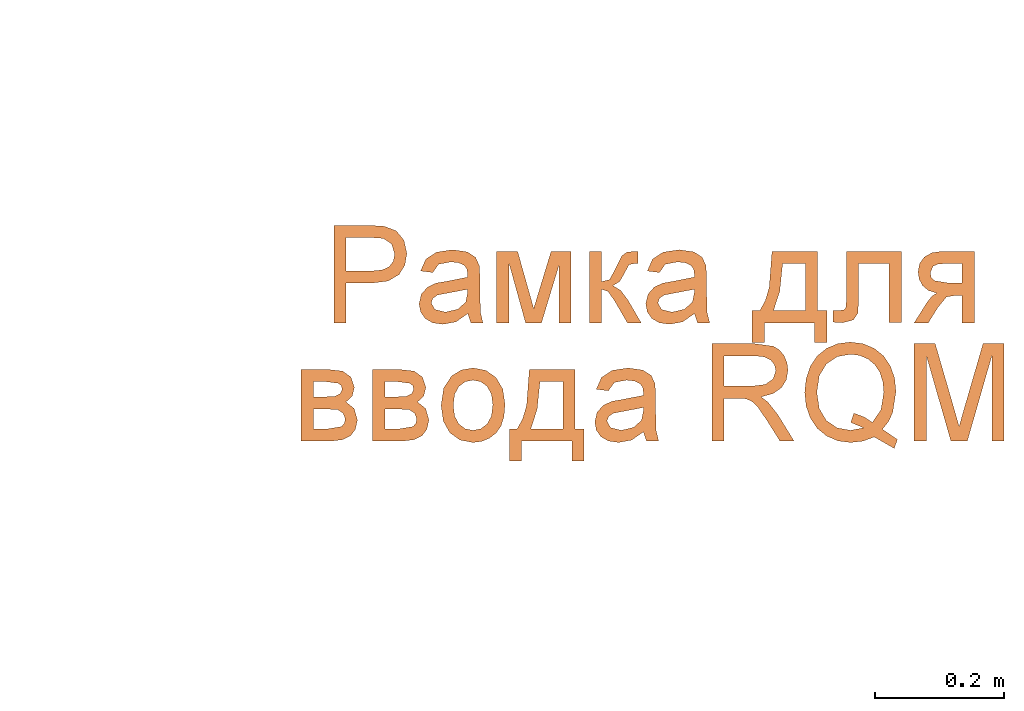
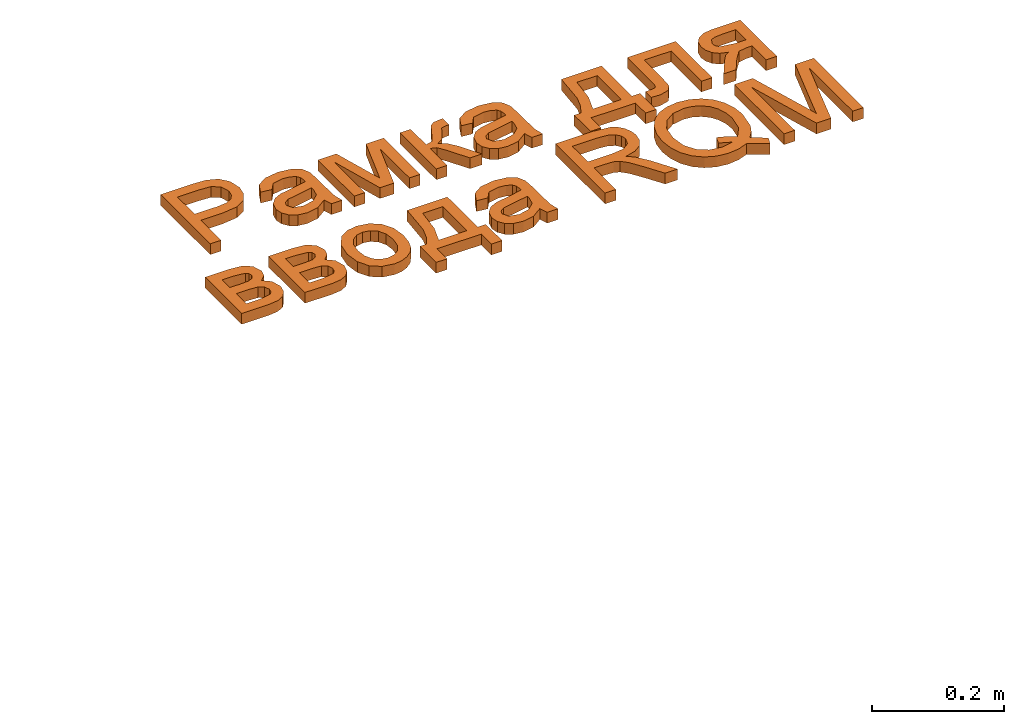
# One storey, part 32 of 71: 1 proxy.
"""IFC2X3 building model written with IfcOpenShell, lengths in millimetres."""

import ifcopenshell
import ifcopenshell.guid

model = None  # the IFC model being written
_history = None  # IfcOwnerHistory: only IFC2X3 demands one
_inside = {}  # id of a spatial element -> (the spatial element, [elements in it])
_under = {}  # id of a project, library or spatial element -> (it, [spatial elements below it])
_declared = {}  # id of a project -> (the project, [libraries it declares])
_typed = {}  # id of a type object -> (the type object, [elements of that type])
_made_of = {}  # id of a material, layer set ... -> (it, [elements and type objects made of it])


def new_model(schema):
    """Start an empty IFC model of exactly this schema.

    Asked for "IFC4X3", IfcOpenShell would pick the latest addendum, in which some entities
    have other attributes; the version numbers below select the first issue.
    IFC2X3 requires an IfcOwnerHistory on every rooted entity: one is made here for all.
    """
    global model, _history
    if schema == "IFC4X3":
        model = ifcopenshell.file(schema_version=(4, 3, 0, 0))
    else:
        model = ifcopenshell.file(schema=schema)
    _inside.clear()
    _under.clear()
    _declared.clear()
    _typed.clear()
    _made_of.clear()
    _history = None
    if model.schema == "IFC2X3":
        org = make("IfcOrganization", Name="unknown")
        user = make(
            "IfcPersonAndOrganization",
            ThePerson=make("IfcPerson", FamilyName="unknown"),
            TheOrganization=org,
        )
        app = make(
            "IfcApplication",
            ApplicationDeveloper=org,
            Version="unknown",
            ApplicationFullName="unknown",
            ApplicationIdentifier="unknown",
        )
        _history = make(
            "IfcOwnerHistory",
            OwningUser=user,
            OwningApplication=app,
            ChangeAction="ADDED",
            CreationDate=0,
        )
    return model


def make(cls, **values):
    """One entity of the class cls with the attributes given. An attribute that is None is left unset."""
    return model.create_entity(
        cls, **{name: value for name, value in values.items() if value is not None}
    )


def entity(cls, *values):
    """Any entity or typed value of the class cls, its attributes in the order of the schema. None: left unset."""
    e = model.create_entity(cls)
    for i, value in enumerate(values):
        if value is not None:
            e[i] = value
    return e


def rooted(cls, **values):
    """An entity with a GlobalId (a new one), such as an element, a storey or a relation."""
    return make(cls, GlobalId=ifcopenshell.guid.new(), OwnerHistory=_history, **values)


def si_unit(unit_type, name, prefix=None):
    """IfcSIUnit, for example si_unit("LENGTHUNIT", "METRE", prefix="MILLI")."""
    return make("IfcSIUnit", UnitType=unit_type, Prefix=prefix, Name=name)


def converted_unit(unit_type, name, factor, base, dimensions=None, offset=None):
    """IfcConversionBasedUnit, such as the inch: factor (a typed value) times the base unit."""
    return make(
        "IfcConversionBasedUnit"
        if offset is None
        else "IfcConversionBasedUnitWithOffset",
        ConversionOffset=offset,
        Dimensions=None
        if dimensions is None
        else entity("IfcDimensionalExponents", *dimensions),
        UnitType=unit_type,
        Name=name,
        ConversionFactor=make(
            "IfcMeasureWithUnit", ValueComponent=factor, UnitComponent=base
        ),
    )


def derived_unit(unit_type, elements):
    """IfcDerivedUnit: a product of units, each with its exponent."""
    return make(
        "IfcDerivedUnit",
        Elements=[
            make("IfcDerivedUnitElement", Unit=unit, Exponent=power)
            for unit, power in elements
        ],
        UnitType=unit_type,
    )


def assignment(units):
    """IfcUnitAssignment: the units of a project."""
    return None if units is None else make("IfcUnitAssignment", Units=units)


def point(xyz):
    """IfcCartesianPoint."""
    return None if xyz is None else make("IfcCartesianPoint", Coordinates=xyz)


def direction(xyz):
    """IfcDirection."""
    return None if xyz is None else make("IfcDirection", DirectionRatios=xyz)


def frame(location, z_axis=None, x_axis=None):
    """IfcAxis2Placement3D, a coordinate frame: its origin and axes. An axis left out is left unset."""
    return make(
        "IfcAxis2Placement3D",
        Location=point(location),
        Axis=direction(z_axis),
        RefDirection=direction(x_axis),
    )


def origin():
    """The frame at (0, 0, 0) with its axes left unset."""
    return frame((0.0, 0.0, 0.0))


def place(relative_to, where):
    """IfcLocalPlacement: puts the frame where relative to a parent placement (None: the world)."""
    return make(
        "IfcLocalPlacement", PlacementRelTo=relative_to, RelativePlacement=where
    )


def context(
    kind, dimensions, precision=None, world=None, true_north=None, identifier=None
):
    """IfcGeometricRepresentationContext, for example the 3D "Model" context."""
    return make(
        "IfcGeometricRepresentationContext",
        ContextIdentifier=identifier,
        ContextType=kind,
        CoordinateSpaceDimension=dimensions,
        Precision=precision,
        WorldCoordinateSystem=world,
        TrueNorth=true_north,
    )


def subcontext(parent, identifier, kind, view, scale=None):
    """IfcGeometricRepresentationSubContext, for example "Body" below "Model"."""
    return make(
        "IfcGeometricRepresentationSubContext",
        ContextIdentifier=identifier,
        ContextType=kind,
        ParentContext=parent,
        TargetScale=scale,
        TargetView=view,
    )


def project(units=None, contexts=None):
    """IfcProject with its units and contexts."""
    return rooted(
        "IfcProject",
        Name="project",
        RepresentationContexts=contexts,
        UnitsInContext=assignment(units),
    )


def spatial(cls, under=None, at=None, **own):
    """A site, building, storey or space (cls), placed at a placement, below another one or the project."""
    s = rooted(cls, ObjectPlacement=at, **own)
    if under is not None:
        _under.setdefault(under.id(), (under, []))[1].append(s)
    return s


def polyline(points):
    """IfcPolyline through the points."""
    return make("IfcPolyline", Points=[point(p) for p in points])


def outline(outer, holes=None, kind="AREA"):
    """IfcArbitraryClosedProfileDef: a profile drawn as a closed curve; with holes, ...WithVoids."""
    if holes is None:
        return make("IfcArbitraryClosedProfileDef", ProfileType=kind, OuterCurve=outer)
    return make(
        "IfcArbitraryProfileDefWithVoids",
        ProfileType=kind,
        OuterCurve=outer,
        InnerCurves=holes,
    )


def extrude(swept, where, along, depth):
    """IfcExtrudedAreaSolid: the profile swept, set in the frame where, extruded along a direction by depth."""
    return make(
        "IfcExtrudedAreaSolid",
        SweptArea=swept,
        Position=where,
        ExtrudedDirection=direction(along),
        Depth=depth,
    )


def shape(context_of_items, identifier, shape_type, items):
    """IfcShapeRepresentation: the items that make up one representation, for example the "Body"."""
    return make(
        "IfcShapeRepresentation",
        ContextOfItems=context_of_items,
        RepresentationIdentifier=identifier,
        RepresentationType=shape_type,
        Items=items,
    )


def made_of(thing, what):
    """Note that an element or type object is made of a material, layer set ...; save() writes the relation."""
    if what is not None:
        _made_of.setdefault(what.id(), (what, []))[1].append(thing)
    return thing


def element(
    cls,
    number,
    at=None,
    inside=None,
    cuts=None,
    type_object=None,
    material=None,
    context=None,
    identifier="Body",
    shape_type=None,
    held_by="IfcProductDefinitionShape",
    body=None,
    shapes=None,
    **own,
):
    """One element of the class cls, such as IfcWall. Its Tag is "e" and its number.

    at: its placement. inside: the storey or other place that contains it. cuts: it is an
    opening in that element (IfcRelVoidsElement). A single representation is given by context,
    identifier, shape_type and body (its items); several are given by shapes. held_by: the class
    of the entity that holds the representations. save() writes the other relations.
    """
    e = rooted(cls, Tag="e%d" % number, ObjectPlacement=at, **own)
    if body is not None:
        shapes = [shape(context, identifier, shape_type, body)]
    if shapes is not None:
        e.Representation = make(held_by, Representations=shapes)
    if inside is not None:
        _inside.setdefault(inside.id(), (inside, []))[1].append(e)
    if cuts is not None:
        rooted(
            "IfcRelVoidsElement", RelatingBuildingElement=cuts, RelatedOpeningElement=e
        )
    if type_object is not None:
        _typed.setdefault(type_object.id(), (type_object, []))[1].append(e)
    return made_of(e, material)


def aggregate(whole, parts):
    """IfcRelAggregates: a whole, such as a stair, and the parts it consists of."""
    return rooted("IfcRelAggregates", RelatingObject=whole, RelatedObjects=parts)


def save(model, path):
    """Write the relations noted so far, then the file.

    IfcRelAggregates (storeys below a building ...), IfcRelContainedInSpatialStructure (elements
    in a storey), IfcRelDefinesByType, IfcRelAssociatesMaterial and IfcRelDeclares: one each for
    every whole, place, type object, material and project.
    """
    for whole, parts in _under.values():
        aggregate(whole, parts)
    for where, things in _inside.values():
        rooted(
            "IfcRelContainedInSpatialStructure",
            RelatedElements=things,
            RelatingStructure=where,
        )
    for kind, things in _typed.values():
        rooted("IfcRelDefinesByType", RelatedObjects=things, RelatingType=kind)
    for what, things in _made_of.values():
        rooted("IfcRelAssociatesMaterial", RelatedObjects=things, RelatingMaterial=what)
    for by, libraries in _declared.values():
        rooted("IfcRelDeclares", RelatingContext=by, RelatedDefinitions=libraries)
    model.write(path)


model = new_model("IFC2X3")

# Units and contexts
model_context = context("Model", 3, precision=0.01, world=origin(), true_north=direction((6.12303176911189e-17, 1.0)))
body_context = subcontext(model_context, "Body", "Model", "MODEL_VIEW")
ifc_project = project(units=[si_unit("LENGTHUNIT", "METRE", prefix="MILLI"), si_unit("AREAUNIT", "SQUARE_METRE"), si_unit("VOLUMEUNIT", "CUBIC_METRE"), converted_unit("PLANEANGLEUNIT", "DEGREE", entity("IfcRatioMeasure", 0.0174532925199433), si_unit("PLANEANGLEUNIT", "RADIAN"), dimensions=[0, 0, 0, 0, 0, 0, 0]), si_unit("MASSUNIT", "GRAM", prefix="KILO"), derived_unit("MASSDENSITYUNIT", [(si_unit("MASSUNIT", "GRAM", prefix="KILO"), 1), (si_unit("LENGTHUNIT", "METRE"), -3)]), si_unit("TIMEUNIT", "SECOND"), si_unit("FREQUENCYUNIT", "HERTZ"), si_unit("THERMODYNAMICTEMPERATUREUNIT", "DEGREE_CELSIUS"), derived_unit("THERMALTRANSMITTANCEUNIT", [(si_unit("MASSUNIT", "GRAM", prefix="KILO"), 1), (si_unit("THERMODYNAMICTEMPERATUREUNIT", "KELVIN"), -1), (si_unit("TIMEUNIT", "SECOND"), -3)]), derived_unit("VOLUMETRICFLOWRATEUNIT", [(si_unit("LENGTHUNIT", "METRE"), 3), (si_unit("TIMEUNIT", "SECOND"), -1)]), si_unit("ELECTRICCURRENTUNIT", "AMPERE"), si_unit("ELECTRICVOLTAGEUNIT", "VOLT"), si_unit("POWERUNIT", "WATT"), si_unit("FORCEUNIT", "NEWTON", prefix="KILO"), si_unit("ILLUMINANCEUNIT", "LUX"), si_unit("LUMINOUSFLUXUNIT", "LUMEN"), si_unit("LUMINOUSINTENSITYUNIT", "CANDELA"), derived_unit("USERDEFINED", [(si_unit("MASSUNIT", "GRAM", prefix="KILO"), -1), (si_unit("LENGTHUNIT", "METRE"), -2), (si_unit("TIMEUNIT", "SECOND"), 3), (si_unit("LUMINOUSFLUXUNIT", "LUMEN"), 1)]), derived_unit("LINEARVELOCITYUNIT", [(si_unit("LENGTHUNIT", "METRE"), 1), (si_unit("TIMEUNIT", "SECOND"), -1)]), si_unit("PRESSUREUNIT", "PASCAL"), derived_unit("USERDEFINED", [(si_unit("LENGTHUNIT", "METRE"), -2), (si_unit("MASSUNIT", "GRAM", prefix="KILO"), 1), (si_unit("TIMEUNIT", "SECOND"), -2)])], contexts=[model_context])

# Site, building, storey
site_placement = place(None, origin())
site = spatial("IfcSite", under=ifc_project, at=site_placement, Name="Default", CompositionType="ELEMENT")
building_placement = place(site_placement, origin())
building = spatial("IfcBuilding", under=site, at=building_placement, Name="Наименование здания", CompositionType="ELEMENT")
storey_placement = place(building_placement, origin())
storey = spatial("IfcBuildingStorey", under=building, at=storey_placement, Name="Этаж 01", CompositionType="ELEMENT", Elevation=0.0)

# Proxy
proxy_placement = place(storey_placement, origin())
element("IfcBuildingElementProxy", 1, at=proxy_placement, inside=storey, Name="Текст модели:150 мм Arial", ObjectType="Текст модели:150 мм Arial", context=body_context, shape_type="SweptSolid", body=[
    extrude(outline(polyline([(-64.7670401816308, -90.6454161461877), (-45.9314820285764, -90.6454161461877), (-45.9314820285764, -29.4298521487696), (-7.6349663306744, -29.4298521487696), (19.123850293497, -26.1005200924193), (36.1245969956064, -16.1125239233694), (45.2158808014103, -1.31447066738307), (48.2463087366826, 16.4450326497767), (43.758148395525, 36.9912420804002), (31.8939540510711, 51.5593690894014), (13.5918247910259, 58.6043092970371), (-8.9225533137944, 60.0390490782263), (-64.7670401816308, 60.0390490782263), (-64.7670401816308, -90.6454161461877)]), holes=[polyline([(-45.9314820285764, -10.5942939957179), (-45.9314820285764, 41.2034909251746), (-6.97277873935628, 41.2034909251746), (11.8627794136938, 39.9159039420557), (24.5731023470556, 31.3810416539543), (29.4107505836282, 15.782845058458), (27.3598084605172, 4.64521765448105), (21.2069820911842, -3.67811248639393), (10.1705222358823, -8.86524861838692), (-6.53132034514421, -10.5942939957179), (-45.9314820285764, -10.5942939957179)])]), frame((26245.7813374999, 4544.2435995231, 0.0)), (0.0, 0.0, 1.0), 20.0),
    extrude(outline(polyline([(49.6524096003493, 10.0181831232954), (64.5432257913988, 10.0181831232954), (70.4995522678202, 27.8871625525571), (54.2883394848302, 29.335527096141), (22.9420080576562, 38.7760718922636), (0.710484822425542, 46.1865796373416), (-15.2157084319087, 50.5258565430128), (-29.1700318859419, 49.0891254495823), (-41.2222862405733, 39.5147959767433), (-51.6167739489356, 18.9177724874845), (-55.88043342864, -5.85565960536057), (-50.8431495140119, -24.8298167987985), (-35.9697834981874, -38.3769694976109), (-27.7798345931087, -21.2525308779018), (-37.1040448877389, -8.56625349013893), (-34.5156022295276, 10.6580228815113), (-29.3910674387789, 21.7272506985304), (-22.765817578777, 28.6898706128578), (-16.3179778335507, 30.6413818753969), (-7.93316863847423, 29.2133758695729), (-3.98942903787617, 27.7824615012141), (-8.17747109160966, -5.25653692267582), (-10.6437625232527, -21.6131678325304), (-8.95109552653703, -36.0793630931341), (-1.68600590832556, -48.4864376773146), (11.3085579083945, -56.618219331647), (24.0777236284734, -58.3588743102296), (36.000555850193, -54.7859509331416), (46.0329524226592, -45.8907241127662), (53.130811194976, -31.6644687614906), (55.9868232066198, -11.3466480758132), (49.6524096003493, 10.0181831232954)]), holes=[polyline([(13.9144507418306, 21.9308360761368), (18.9401012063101, 20.1392847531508), (31.8183305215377, 12.7055101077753), (38.2807120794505, -2.40052491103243), (36.5298778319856, -21.9040040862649), (27.44996999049, -36.2305979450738), (16.0084717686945, -38.330435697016), (9.94744424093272, -33.5956214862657), (7.55677023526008, -25.0624858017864), (9.78457593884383, -8.72330506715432), (13.9144507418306, 21.9308360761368)])]), frame((26362.9998834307, 4511.66123601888, 0.0), z_axis=(0.0, 0.0, 1.0), x_axis=(0.316227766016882, -0.948683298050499, 0.0)), (0.0, 0.0, 1.0), 20.0),
    extrude(outline(polyline([(-60.8759806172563, -57.6754072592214), (49.7829235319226, -57.6754072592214), (49.7829235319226, -38.8398491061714), (-43.5855268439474, -38.8398491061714), (49.7829235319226, -12.9409566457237), (49.7829235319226, 11.7807134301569), (-39.3180956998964, 38.8568282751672), (49.7829235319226, 38.8568282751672), (49.7829235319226, 57.6923864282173), (-60.8759806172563, 57.6923864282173), (-60.8759806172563, 26.6431460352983), (27.710003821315, -0.285816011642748), (-60.8759806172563, -25.26500348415), (-60.8759806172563, -57.6754072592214)])), frame((26490.6152948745, 4503.38110690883, 0.0), z_axis=(0.0, 0.0, 1.0), x_axis=(0.0, -1.0, 0.0)), (0.0, 0.0, 1.0), 20.0),
    extrude(outline(polyline([(-45.4943568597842, -44.3029556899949), (65.1645472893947, -44.3029556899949), (65.1645472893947, -25.4673975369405), (13.3667623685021, -25.4673975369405), (16.8432472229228, -15.3506426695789), (31.2090391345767, -5.41782879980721), (65.1645472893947, 14.3374343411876), (65.1645472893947, 35.7481664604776), (30.4732751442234, 15.588233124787), (15.0314283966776, 3.9263738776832), (7.70137964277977, -7.95621456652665), (1.13468602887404, 2.69396919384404), (-12.27461269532, 10.2907323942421), (-24.6722359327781, 16.765455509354), (-26.6587987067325, 25.9625053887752), (-26.5484341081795, 31.0392769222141), (-45.4943568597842, 31.0392769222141), (-45.4943568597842, 27.4340333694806), (-44.0596170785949, 13.6568526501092), (-38.5229930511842, 6.07848354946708), (-21.5084507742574, -2.51156103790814), (-1.78997583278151, -12.8490451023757), (1.59453852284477, -25.4673975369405), (-45.4943568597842, -25.4673975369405), (-45.4943568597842, -44.3029556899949)])), frame((26620.8639742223, 4518.7627306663, 0.0), z_axis=(0.0, 0.0, 1.0), x_axis=(0.0, -1.0, 0.0)), (0.0, 0.0, 1.0), 20.0),
    extrude(outline(polyline([(49.6524096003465, 10.0181831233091), (64.5432257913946, 10.0181831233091), (70.4995522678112, 27.8871625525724), (54.2883394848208, 29.3355270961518), (22.9420080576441, 38.7760718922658), (0.710484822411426, 46.1865796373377), (-15.2157084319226, 50.5258565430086), (-29.1700318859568, 49.0891254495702), (-41.2222862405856, 39.5147959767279), (-51.6167739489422, 18.9177724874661), (-55.8804334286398, -5.8556596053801), (-50.8431495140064, -24.8298167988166), (-35.9697834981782, -38.3769694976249), (-27.7798345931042, -21.2525308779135), (-37.1040448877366, -8.56625349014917), (-34.5156022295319, 10.6580228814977), (-29.3910674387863, 21.7272506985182), (-22.7658175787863, 28.6898706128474), (-16.3179778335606, 30.6413818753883), (-7.93316863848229, 29.2133758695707), (-3.98942903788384, 27.782461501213), (-8.17747109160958, -5.25653692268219), (-10.6437625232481, -21.6131678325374), (-8.95109552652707, -36.0793630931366), (-1.68600590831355, -48.4864376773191), (11.3085579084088, -56.6182193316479), (24.0777236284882, -58.358874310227), (36.0005558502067, -54.7859509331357), (46.0329524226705, -45.8907241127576), (53.1308111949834, -31.66446876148), (55.9868232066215, -11.3466480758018), (49.6524096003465, 10.0181831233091)]), holes=[polyline([(13.9144507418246, 21.9308360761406), (18.9401012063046, 20.1392847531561), (31.8183305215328, 12.70551010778), (38.2807120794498, -2.40052491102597), (36.5298778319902, -21.9040040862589), (27.4499699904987, -36.2305979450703), (16.0084717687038, -38.3304356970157), (9.94744424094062, -33.5956214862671), (7.55677023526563, -25.0624858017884), (9.78457593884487, -8.72330506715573), (13.9144507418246, 21.9308360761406)])]), frame((26713.8121540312, 4511.66123601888, 0.0), z_axis=(0.0, 0.0, 1.0), x_axis=(0.31622776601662, -0.948683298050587, 0.0)), (0.0, 0.0, 1.0), 20.0),
    extrude(outline(polyline([(-89.8120245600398, 30.1307985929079), (-95.2116329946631, -40.2958539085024), (-3.65698474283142, -47.3153448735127), (-4.73690642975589, -61.4006753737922), (44.5617503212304, -65.1804012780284), (46.0016459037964, -46.3999606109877), (15.4834298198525, -44.0601302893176), (21.4229990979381, 33.4091874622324), (51.941215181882, 31.0693571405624), (53.3811107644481, 49.8497978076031), (4.08245401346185, 53.6295237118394), (3.18251927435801, 41.8917482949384), (-12.8912765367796, 34.5411547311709), (-33.7482991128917, 30.1307985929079), (-89.8120245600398, 30.1307985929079)]), holes=[polyline([(-72.2914925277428, 12.2580174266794), (-29.1661575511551, 13.3791398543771), (1.56263674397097, 20.7637525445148), (-2.21708916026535, -28.534904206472), (-74.9912967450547, -22.9553088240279), (-72.2914925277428, 12.2580174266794)])]), frame((26882.2712849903, 4472.40450804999, 0.0), z_axis=(0.0, 0.0, -1.0), x_axis=(-0.0764456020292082, -0.997073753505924, 0.0)), (0.0, 0.0, -1.0), 20.0),
    extrude(outline(polyline([(-74.0534959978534, 18.8171640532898), (-74.0534959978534, -65.942847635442), (36.4950435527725, -65.942847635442), (36.4950435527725, -47.1072894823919), (-55.2179378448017, -47.1072894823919), (-55.2179378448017, -0.0183940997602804), (-2.42687153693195, -0.0183940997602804), (21.9269165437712, 1.25079878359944), (32.2092183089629, 8.22216259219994), (36.6054081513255, 24.7032759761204), (35.6489149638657, 40.0071669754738), (17.7698499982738, 40.0071669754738), (17.7698499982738, 31.5826692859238), (16.6110217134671, 23.066201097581), (12.9322017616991, 19.6632926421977), (-3.49372932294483, 18.8171640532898), (-74.0534959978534, 18.8171640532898)])), frame((26993.2793485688, 4490.20359152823, 0.0), z_axis=(0.0, 0.0, -1.0), x_axis=(0.0, -1.0, 0.0)), (0.0, 0.0, -1.0), 20.0),
    extrude(outline(polyline([(-56.4073463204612, -58.5456604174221), (-7.25831176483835, -58.5456604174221), (9.02966357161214, -56.3291713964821), (20.9582372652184, -49.6797043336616), (28.2698919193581, -39.4709789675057), (30.7071101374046, -26.576715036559), (28.922882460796, -15.2091613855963), (23.5701994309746, -5.23955931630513), (14.520302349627, 2.25603633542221), (1.64443251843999, 6.20157073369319), (9.33316621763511, 11.0208248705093), (17.6840875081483, 21.8733437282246), (36.5932220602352, 52.1132437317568), (14.8146079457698, 52.1132437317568), (-0.194977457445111, 28.2009140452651), (-13.3283646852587, 12.1244708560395), (-27.307880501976, 9.73323788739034), (-37.5717881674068, 9.73323788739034), (-37.5717881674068, 52.1132437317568), (-56.4073463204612, 52.1132437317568), (-56.4073463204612, -58.5456604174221)]), holes=[polyline([(-37.5717881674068, -39.7101022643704), (-37.5717881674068, -9.10232026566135), (-18.2947716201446, -9.10232026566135), (5.23128197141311, -12.9834753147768), (10.2114844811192, -17.9636778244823), (11.8715519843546, -25.1419752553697), (7.36499754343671, -35.3507006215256), (0.0855325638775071, -38.6202518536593), (-12.7397534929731, -39.7101022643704), (-37.5717881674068, -39.7101022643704)])]), frame((27115.8281988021, 4505.71142710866, 0.0), z_axis=(0.0, 0.0, 1.0), x_axis=(-1.0, 0.0, 0.0)), (0.0, 0.0, 1.0), 20.0),
    extrude(outline(polyline([(-56.9428773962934, -61.1019147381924), (53.7160267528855, -61.1019147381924), (53.7160267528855, -13.2404671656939), (51.7202669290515, 3.22225211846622), (45.7329874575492, 15.2335992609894), (35.6254296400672, 22.8211654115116), (21.2688347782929, 26.012541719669), (3.51852851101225, 20.9725583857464), (-6.69019685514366, 8.31741775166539), (-16.0160054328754, 18.0662906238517), (-29.0942103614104, 21.3036521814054), (-45.1890476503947, 15.950969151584), (-54.4228857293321, 3.14867571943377), (-56.9428773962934, -19.6048256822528), (-56.9428773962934, -61.1019147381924)]), holes=[polyline([(34.8804685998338, -42.2663565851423), (4.27268660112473, -42.2663565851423), (4.27268660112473, -21.0027772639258), (5.37633258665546, -4.42969338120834), (10.6554392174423, 3.95801610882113), (19.7237303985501, 7.17698356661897), (26.8376484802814, 5.56749983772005), (31.4775601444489, 1.32765984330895), (34.8804685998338, -19.1633672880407), (34.8804685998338, -42.2663565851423)]), polyline([(-14.562871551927, -42.2663565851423), (-38.1073192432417, -42.2663565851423), (-38.1073192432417, -23.0629164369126), (-35.4953570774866, -3.30765329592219), (-31.8809164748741, 1.02415719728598), (-26.2615189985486, 2.46809402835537), (-19.3453374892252, -0.824449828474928), (-15.5193647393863, -8.29245433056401), (-14.562871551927, -23.6515276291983), (-14.562871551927, -42.2663565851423)])]), frame((26191.4956495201, 4324.35198336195, 0.0), z_axis=(0.0, 0.0, 1.0), x_axis=(0.0, -1.0, 0.0)), (0.0, 0.0, 1.0), 20.0),
    extrude(outline(polyline([(-56.9428773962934, -61.1019147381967), (53.7160267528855, -61.1019147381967), (53.7160267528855, -13.2404671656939), (51.7202669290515, 3.22225211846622), (45.7329874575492, 15.2335992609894), (35.6254296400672, 22.8211654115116), (21.2688347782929, 26.012541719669), (3.51852851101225, 20.9725583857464), (-6.69019685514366, 8.31741775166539), (-16.0160054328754, 18.0662906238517), (-29.0942103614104, 21.3036521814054), (-45.1890476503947, 15.950969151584), (-54.4228857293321, 3.14867571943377), (-56.9428773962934, -19.6048256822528), (-56.9428773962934, -61.1019147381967)]), holes=[polyline([(-14.562871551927, -42.2663565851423), (-38.1073192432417, -42.2663565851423), (-38.1073192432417, -23.0629164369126), (-35.4953570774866, -3.30765329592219), (-31.8809164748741, 1.02415719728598), (-26.2615189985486, 2.46809402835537), (-19.3453374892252, -0.82444982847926), (-15.5193647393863, -8.29245433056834), (-14.562871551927, -23.6515276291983), (-14.562871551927, -42.2663565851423)]), polyline([(34.8804685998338, -42.2663565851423), (4.27268660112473, -42.2663565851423), (4.27268660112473, -21.0027772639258), (5.37633258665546, -4.42969338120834), (10.6554392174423, 3.95801610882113), (19.7237303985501, 7.17698356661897), (26.8376484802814, 5.56749983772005), (31.4775601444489, 1.32765984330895), (34.8804685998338, -19.1633672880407), (34.8804685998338, -42.2663565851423)])]), frame((26302.1545536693, 4324.35198336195, 0.0), z_axis=(0.0, 0.0, 1.0), x_axis=(0.0, -1.0, 0.0)), (0.0, 0.0, 1.0), 20.0),
    extrude(outline(polyline([(-11.1946000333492, -52.2426443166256), (13.7256178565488, -52.2426443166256), (33.0962748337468, -44.5759588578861), (46.3022849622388, -30.4665992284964), (52.7285623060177, -11.1385767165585), (52.8795704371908, 2.26160042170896), (49.5396030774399, 15.0586597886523), (42.9102470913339, 26.3612191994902), (33.1930893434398, 35.2778964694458), (19.4724914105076, 41.8007990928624), (0.832814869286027, 45.922034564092), (-22.8762356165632, 45.7172545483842), (-41.8930612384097, 37.8901775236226), (-55.1425891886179, 23.7682718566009), (-61.5497466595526, 4.6790059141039), (-60.9951142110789, -13.6515433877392), (-53.9645370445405, -29.8701936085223), (-37.0646721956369, -44.548758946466), (-11.1946000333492, -52.2426443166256)]), holes=[polyline([(-8.64857835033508, -33.5799173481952), (-25.2263685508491, -29.0848574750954), (-36.3325046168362, -20.9461821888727), (-42.1575488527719, -10.2052592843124), (-42.892063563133, 2.09654344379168), (-38.8516378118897, 13.6120893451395), (-30.3014219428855, 22.3586496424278), (-17.5331679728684, 27.2345846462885), (-0.838627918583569, 27.1382546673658), (16.1172354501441, 22.5908646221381), (27.4101305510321, 14.4263394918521), (33.3060231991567, 3.69417972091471), (34.0708792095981, -8.55611424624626), (30.0134303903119, -20.1946478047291), (21.4625840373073, -28.9457632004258), (8.53602088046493, -33.7580048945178), (-8.64857835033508, -33.5799173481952)])]), frame((26400.2867839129, 4322.03929027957, 0.0), z_axis=(0.0, 0.0, 1.0), x_axis=(0.137105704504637, -0.990556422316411, 0.0)), (0.0, 0.0, 1.0), 20.0),
    extrude(outline(polyline([(-89.8120245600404, 30.1307985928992), (-95.2116329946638, -40.2958539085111), (-3.65698474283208, -47.3153448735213), (-4.73690642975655, -61.4006753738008), (44.5617503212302, -65.1804012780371), (46.0016459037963, -46.3999606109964), (15.4834298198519, -44.0601302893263), (21.4229990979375, 33.4091874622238), (51.9412151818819, 31.0693571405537), (53.381110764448, 49.8497978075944), (4.08245401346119, 53.6295237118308), (3.18251927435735, 41.8917482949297), (-12.8912765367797, 34.5411547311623), (-33.7482991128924, 30.1307985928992), (-89.8120245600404, 30.1307985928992)]), holes=[polyline([(-72.2914925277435, 12.2580174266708), (-29.1661575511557, 13.3791398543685), (1.56263674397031, 20.7637525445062), (-2.21708916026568, -28.5349042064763), (-74.991296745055, -22.9553088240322), (-72.2914925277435, 12.2580174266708)])]), frame((26506.7373443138, 4289.44228128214, 0.0), z_axis=(0.0, 0.0, -1.0), x_axis=(-0.0764456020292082, -0.997073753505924, 0.0)), (0.0, 0.0, -1.0), 20.0),
    extrude(outline(polyline([(49.6524096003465, 10.0181831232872), (64.543225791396, 10.0181831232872), (70.4995522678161, 27.8871625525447), (54.2883394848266, 29.3355270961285), (22.9420080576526, 38.7760718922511), (0.710484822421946, 46.1865796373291), (-15.2157084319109, 50.5258565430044), (-29.170031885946, 49.08912544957), (-41.2222862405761, 39.5147959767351), (-51.6167739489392, 18.917772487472), (-55.8804334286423, -5.85565960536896), (-50.843149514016, -24.8298167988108), (-35.9697834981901, -38.3769694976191), (-27.7798345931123, -21.2525308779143), (-37.1040448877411, -8.56625349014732), (-34.5156022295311, 10.6580228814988), (-29.3910674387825, 21.7272506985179), (-22.7658175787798, 28.6898706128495), (-16.3179778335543, 30.6413818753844), (-7.93316863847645, 29.2133758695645), (-3.9894290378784, 27.7824615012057), (-8.1774710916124, -5.25653692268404), (-10.6437625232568, -21.6131678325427), (-8.95109552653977, -36.0793630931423), (-1.68600590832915, -48.4864376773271), (11.3085579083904, -56.6182193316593), (24.0777236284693, -58.3588743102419), (36.0005558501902, -54.7859509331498), (46.0329524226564, -45.8907241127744), (53.1308111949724, -31.6644687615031), (55.9868232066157, -11.3466480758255), (49.6524096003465, 10.0181831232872)]), holes=[polyline([(13.9144507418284, 21.9308360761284), (18.9401012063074, 20.1392847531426), (31.8183305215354, 12.7055101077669), (38.280712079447, -2.40052491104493), (36.5298778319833, -21.9040040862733), (27.4499699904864, -36.2305979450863), (16.0084717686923, -38.3304356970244), (9.94744424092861, -33.5956214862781), (7.55677023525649, -25.0624858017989), (9.78457593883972, -8.72330506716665), (13.9144507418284, 21.9308360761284)])]), frame((26634.9382542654, 4328.69900925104, 0.0), z_axis=(0.0, 0.0, 1.0), x_axis=(0.316227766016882, -0.948683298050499, 0.0)), (0.0, 0.0, 1.0), 20.0),
    extrude(outline(polyline([(-77.1318585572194, -74.4987031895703), (-58.2963004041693, -74.4987031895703), (-58.2963004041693, -8.57424965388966), (-35.561193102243, -8.57424965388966), (-24.6350978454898, -9.23643724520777), (-15.677171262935, -12.8232866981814), (-5.72596329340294, -22.5905536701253), (8.43749352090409, -43.265521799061), (28.0456038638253, -74.4987031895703), (49.9345825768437, -74.4987031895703), (24.8082423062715, -33.6638017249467), (9.54113950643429, -14.2764205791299), (-1.16422655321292, -6.21980488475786), (17.3908215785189, -1.22580680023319), (30.381654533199, 7.79649913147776), (38.0381985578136, 20.1021518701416), (40.5903798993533, 34.9461903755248), (39.0498740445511, 46.8793625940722), (34.4283564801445, 57.7364799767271), (27.2270664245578, 66.4920714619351), (17.947243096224, 72.1206659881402), (-12.2006864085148, 76.1857620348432), (-77.1318585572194, 76.1857620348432), (-77.1318585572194, -74.4987031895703)]), holes=[polyline([(-58.2963004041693, 10.2613084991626), (-58.2963004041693, 57.3502038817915), (-11.3913460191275, 57.3502038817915), (3.51247331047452, 55.7223260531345), (13.7901765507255, 50.8386925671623), (19.7636604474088, 43.4350674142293), (21.7548217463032, 34.2472145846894), (17.5793611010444, 21.4633152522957), (5.3656788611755, 12.9284529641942), (-16.1370237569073, 10.2613084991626), (-58.2963004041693, 10.2613084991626)])]), frame((26843.2256810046, 4345.13465979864, 0.0)), (0.0, 0.0, 1.0), 20.0),
    extrude(outline(polyline([(-12.3947387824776, -66.10728478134), (2.5539334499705, -66.10728478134), (17.3475878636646, -62.8393941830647), (46.4800510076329, -46.6321895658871), (61.6091925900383, -32.0328789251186), (72.3163994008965, -15.4313962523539), (78.0723525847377, 2.50587591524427), (78.3477332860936, 21.1125550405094), (73.3435395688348, 39.342423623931), (63.2607694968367, 56.1492641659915), (49.479399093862, 69.8627902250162), (33.1523889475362, 79.1021996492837), (14.9987617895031, 83.2859521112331), (-4.2624596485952, 81.8325072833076), (-23.4949363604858, 75.2005415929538), (-41.5623293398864, 63.8487314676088), (-56.8768744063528, 49.0163678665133), (-67.6771168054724, 32.0789510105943), (-73.47778840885, 13.8261036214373), (-73.7936210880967, -4.95255157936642), (-68.8578941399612, -23.2068927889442), (-58.9038868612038, -39.8867982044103), (-45.3916983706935, -53.6594772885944), (-29.5998154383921, -63.4237269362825), (-24.3287116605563, -98.7012919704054), (-10.3402377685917, -94.183096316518), (-12.3947387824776, -66.10728478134)]), holes=[polyline([(-19.9227109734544, -15.9094187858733), (-34.2670988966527, -20.9872312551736), (-28.60226027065, -41.7436848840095), (-44.1503958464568, -28.1767625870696), (-53.9359833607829, -9.53564354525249), (-55.2336379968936, 10.6074553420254), (-47.429620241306, 30.6650952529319), (-29.9101905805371, 49.0498373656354), (-7.4190634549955, 61.9890353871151), (13.9105221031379, 64.6203689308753), (32.9341185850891, 58.3137844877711), (48.5072784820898, 44.4392285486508), (55.859047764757, 32.1060038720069), (59.4352991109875, 18.6703510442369), (59.0647439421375, 4.9095914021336), (54.5760936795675, -8.39895371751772), (46.1842717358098, -20.9406427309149), (34.1042015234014, -32.400834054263), (9.95250344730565, -45.7189277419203), (-13.5218489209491, -47.2621970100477), (-14.8610532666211, -32.0663936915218), (-19.9227109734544, -15.9094187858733)])]), frame((26985.6047641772, 4339.24630244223, 0.0), z_axis=(0.0, 0.0, 1.0), x_axis=(0.617087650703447, 0.786894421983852, 0.0)), (0.0, 0.0, 1.0), 20.0),
    extrude(outline(polyline([(-69.4904563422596, -65.3015066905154), (-50.6548981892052, -65.3015066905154), (-50.6548981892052, 66.5474003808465), (-12.7998408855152, -65.3015066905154), (12.7311695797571, -65.3015066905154), (50.586226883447, 66.5474003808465), (50.586226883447, -65.3015066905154), (69.4217850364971, -65.3015066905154), (69.4217850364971, 85.3829585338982), (37.0113812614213, 85.3829585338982), (6.69790485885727, -18.9851634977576), (-0.0343356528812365, -43.0078577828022), (-6.25154137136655, -20.8245734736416), (-37.0800525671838, 85.3829585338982), (-69.4904563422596, 85.3829585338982), (-69.4904563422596, -65.3015066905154)])), frame((27148.7254330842, 4335.93746329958, 0.0)), (0.0, 0.0, 1.0), 20.0),
])

save(model, "model.ifc")
